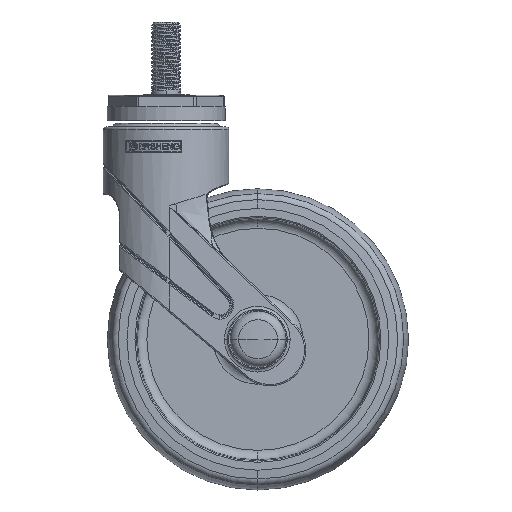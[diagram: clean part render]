
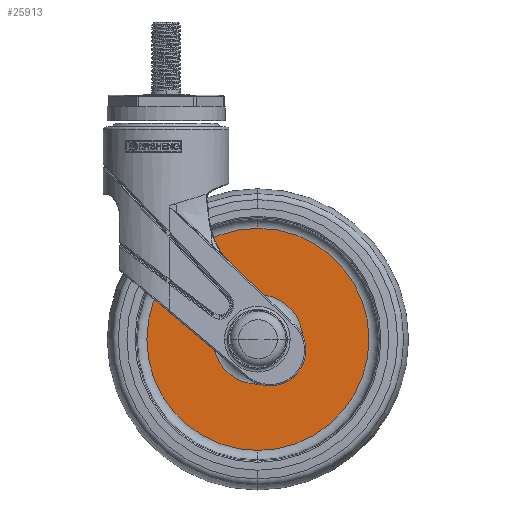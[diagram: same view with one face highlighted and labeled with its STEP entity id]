
A CAD part, top view. The second image highlights one B-rep face of the part: STEP entity #25913.
In plain terms, the highlighted planar face has unit normal (0, 0, 1).
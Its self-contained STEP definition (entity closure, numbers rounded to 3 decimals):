
#25562=CARTESIAN_POINT('',(38.,-88.,2.75));
#25563=DIRECTION('',(0.,0.,-1.));
#25564=DIRECTION('',(0.,-1.,0.));
#25565=AXIS2_PLACEMENT_3D('',#25562,#25563,#25564);
#25567=CARTESIAN_POINT('',(38.,-88.,2.75));
#25568=DIRECTION('',(0.,0.,-1.));
#25569=DIRECTION('',(0.,1.,0.));
#25570=AXIS2_PLACEMENT_3D('',#25567,#25568,#25569);
#25572=CARTESIAN_POINT('',(38.,-88.,2.75));
#25573=DIRECTION('',(0.,0.,-1.));
#25574=DIRECTION('',(0.,-1.,0.));
#25575=AXIS2_PLACEMENT_3D('',#25572,#25573,#25574);
#25577=CARTESIAN_POINT('',(38.,-88.,2.75));
#25578=DIRECTION('',(0.,0.,-1.));
#25579=DIRECTION('',(0.,1.,0.));
#25580=AXIS2_PLACEMENT_3D('',#25577,#25578,#25579);
#25816=CARTESIAN_POINT('',(38.,-134.023,2.75));
#25817=CARTESIAN_POINT('',(38.,-41.977,2.75));
#25818=VERTEX_POINT('',#25816);
#25819=VERTEX_POINT('',#25817);
#25836=CARTESIAN_POINT('',(38.,-106.585,2.75));
#25837=CARTESIAN_POINT('',(38.,-69.415,2.75));
#25838=VERTEX_POINT('',#25836);
#25839=VERTEX_POINT('',#25837);
#25896=CARTESIAN_POINT('',(38.,-88.,2.75));
#25897=DIRECTION('',(0.,0.,-1.));
#25898=DIRECTION('',(0.,-1.,0.));
#25899=AXIS2_PLACEMENT_3D('',#25896,#25897,#25898);
#25900=PLANE('',#25899);
#25902=ORIENTED_EDGE('',*,*,#25901,.T.);
#25904=ORIENTED_EDGE('',*,*,#25903,.T.);
#25905=EDGE_LOOP('',(#25902,#25904));
#25906=FACE_OUTER_BOUND('',#25905,.F.);
#25908=ORIENTED_EDGE('',*,*,#25907,.F.);
#25910=ORIENTED_EDGE('',*,*,#25909,.F.);
#25911=EDGE_LOOP('',(#25908,#25910));
#25912=FACE_BOUND('',#25911,.F.);
#25566=CIRCLE('',#25565,46.023);
#25571=CIRCLE('',#25570,46.023);
#25576=CIRCLE('',#25575,18.585);
#25581=CIRCLE('',#25580,18.585);
#25901=EDGE_CURVE('',#25818,#25819,#25566,.T.);
#25903=EDGE_CURVE('',#25819,#25818,#25571,.T.);
#25907=EDGE_CURVE('',#25838,#25839,#25576,.T.);
#25909=EDGE_CURVE('',#25839,#25838,#25581,.T.);
#25913=ADVANCED_FACE('',(#25906,#25912),#25900,.F.);
